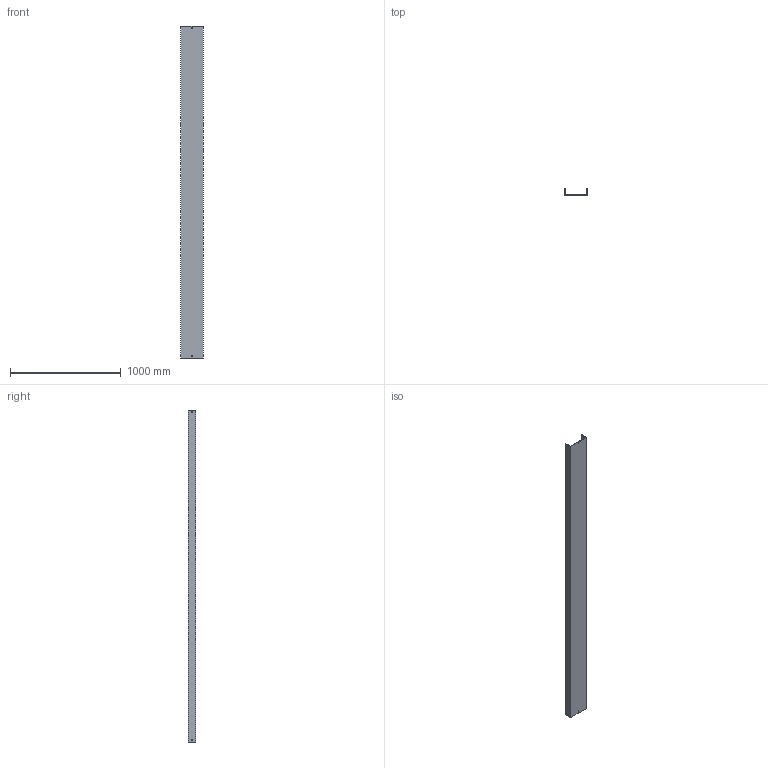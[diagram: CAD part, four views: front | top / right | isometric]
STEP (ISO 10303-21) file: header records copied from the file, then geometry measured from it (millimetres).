
FILE_DESCRIPTION (( 'STEP AP214' ), '1' );
FILE_NAME ('03B3H200.step', '2025-02-21T10:18:10', ( '' ), ( '' ), 'SwSTEP 2.0', 'SolidWorks 2023', '' );
FILE_SCHEMA (( 'AUTOMOTIVE_DESIGN' ));
Length unit declared in the file: millimetre
Products named in the file (1): 03B3H200
Bounding box: 204 x 65.5 x 3000 mm (x, y, z)
Volume: 3442610.5 mm3; surface area: 1991195 mm2
Topology: 1 solids, 1 shells, 34 faces, 96 edges, 64 vertices
Faces by surface type: plane 34
Entity records: 1127 total; most frequent: CARTESIAN_POINT 195, ORIENTED_EDGE 192, DIRECTION 166, VECTOR 96, LINE 96, EDGE_CURVE 96, VERTEX_POINT 64, EDGE_LOOP 46
